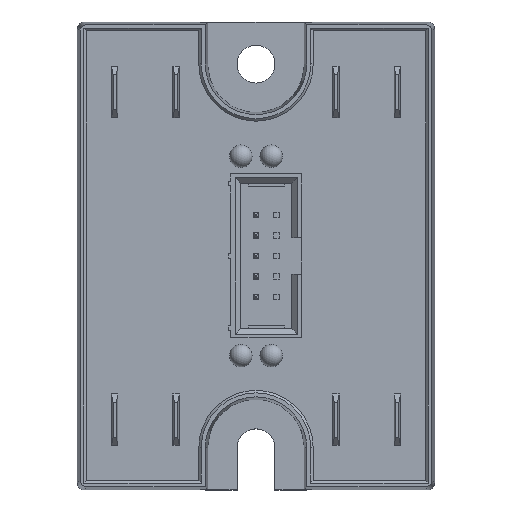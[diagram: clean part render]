
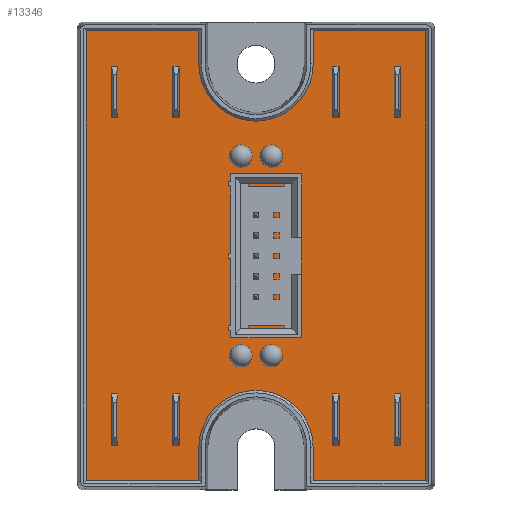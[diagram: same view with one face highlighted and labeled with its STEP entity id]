
A CAD part, top view. The second image highlights one B-rep face of the part: STEP entity #13346.
In plain terms, the highlighted planar face has unit normal (0, 0, 1).
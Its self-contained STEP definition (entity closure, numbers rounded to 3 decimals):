
#416=CIRCLE('',#14305,7.094);
#418=CIRCLE('',#14313,7.094);
#988=FACE_OUTER_BOUND('',#1734,.T.);
#1734=EDGE_LOOP('',(#11008,#11009,#11010,#11011,#11012,#11013,#11014,#11015,
#11016,#11017,#11018,#11019));
#3105=LINE('',#20840,#4703);
#3110=LINE('',#20853,#4708);
#3113=LINE('',#20859,#4711);
#3116=LINE('',#20865,#4714);
#3119=LINE('',#20871,#4717);
#3122=LINE('',#20877,#4720);
#3126=LINE('',#20889,#4724);
#3129=LINE('',#20895,#4727);
#3132=LINE('',#20901,#4730);
#3134=LINE('',#20904,#4732);
#4703=VECTOR('',#17188,10.);
#4708=VECTOR('',#17201,10.);
#4711=VECTOR('',#17206,10.);
#4714=VECTOR('',#17211,10.);
#4717=VECTOR('',#17216,10.);
#4720=VECTOR('',#17221,10.);
#4724=VECTOR('',#17233,10.);
#4727=VECTOR('',#17238,10.);
#4730=VECTOR('',#17243,10.);
#4732=VECTOR('',#17247,10.);
#6034=VERTEX_POINT('',#20837);
#6035=VERTEX_POINT('',#20839);
#6037=VERTEX_POINT('',#20845);
#6039=VERTEX_POINT('',#20851);
#6041=VERTEX_POINT('',#20857);
#6043=VERTEX_POINT('',#20863);
#6045=VERTEX_POINT('',#20869);
#6047=VERTEX_POINT('',#20875);
#6049=VERTEX_POINT('',#20881);
#6051=VERTEX_POINT('',#20887);
#6053=VERTEX_POINT('',#20893);
#6055=VERTEX_POINT('',#20899);
#7711=EDGE_CURVE('',#6035,#6034,#3105,.T.);
#7715=EDGE_CURVE('',#6034,#6037,#416,.T.);
#7718=EDGE_CURVE('',#6037,#6039,#3110,.T.);
#7721=EDGE_CURVE('',#6039,#6041,#3113,.T.);
#7724=EDGE_CURVE('',#6041,#6043,#3116,.T.);
#7727=EDGE_CURVE('',#6043,#6045,#3119,.T.);
#7730=EDGE_CURVE('',#6045,#6047,#3122,.T.);
#7733=EDGE_CURVE('',#6047,#6049,#418,.T.);
#7736=EDGE_CURVE('',#6049,#6051,#3126,.T.);
#7739=EDGE_CURVE('',#6051,#6053,#3129,.T.);
#7742=EDGE_CURVE('',#6053,#6055,#3132,.T.);
#7744=EDGE_CURVE('',#6055,#6035,#3134,.T.);
#11008=ORIENTED_EDGE('',*,*,#7744,.T.);
#11009=ORIENTED_EDGE('',*,*,#7711,.T.);
#11010=ORIENTED_EDGE('',*,*,#7715,.T.);
#11011=ORIENTED_EDGE('',*,*,#7718,.T.);
#11012=ORIENTED_EDGE('',*,*,#7721,.T.);
#11013=ORIENTED_EDGE('',*,*,#7724,.T.);
#11014=ORIENTED_EDGE('',*,*,#7727,.T.);
#11015=ORIENTED_EDGE('',*,*,#7730,.T.);
#11016=ORIENTED_EDGE('',*,*,#7733,.T.);
#11017=ORIENTED_EDGE('',*,*,#7736,.T.);
#11018=ORIENTED_EDGE('',*,*,#7739,.T.);
#11019=ORIENTED_EDGE('',*,*,#7742,.T.);
#12259=PLANE('',#14319);
#13346=ADVANCED_FACE('',(#988),#12259,.F.);
#14305=AXIS2_PLACEMENT_3D('',#20847,#17195,#17196);
#14313=AXIS2_PLACEMENT_3D('',#20883,#17227,#17228);
#14319=AXIS2_PLACEMENT_3D('',#20906,#17250,#17251);
#17188=DIRECTION('',(0.,1.,0.));
#17195=DIRECTION('center_axis',(0.,0.,
-1.));
#17196=DIRECTION('ref_axis',(-1.,0.,0.));
#17201=DIRECTION('',(0.,-1.,0.));
#17206=DIRECTION('',(1.,0.,0.));
#17211=DIRECTION('',(0.,1.,0.));
#17216=DIRECTION('',(-1.,0.,0.));
#17221=DIRECTION('',(0.,-1.,0.));
#17227=DIRECTION('center_axis',(0.,0.,
-1.));
#17228=DIRECTION('ref_axis',(1.,0.,0.));
#17233=DIRECTION('',(0.,1.,0.));
#17238=DIRECTION('',(-1.,0.,0.));
#17243=DIRECTION('',(0.,-1.,0.));
#17247=DIRECTION('',(1.,0.,0.));
#17250=DIRECTION('center_axis',(0.,0.,
-1.));
#17251=DIRECTION('ref_axis',(1.,0.,0.));
#20837=CARTESIAN_POINT('',(-7.094,-23.77,8.101));
#20839=CARTESIAN_POINT('',(-7.094,-27.876,8.101));
#20840=CARTESIAN_POINT('',(-7.094,-27.876,8.101));
#20845=CARTESIAN_POINT('',(7.094,-23.77,8.101));
#20847=CARTESIAN_POINT('Origin',(0.,-23.77,8.101));
#20851=CARTESIAN_POINT('',(7.094,-27.876,8.101));
#20853=CARTESIAN_POINT('',(7.094,-23.77,8.101));
#20857=CARTESIAN_POINT('',(21.056,-27.876,8.101));
#20859=CARTESIAN_POINT('',(7.094,-27.876,8.101));
#20863=CARTESIAN_POINT('',(21.056,27.936,8.101));
#20865=CARTESIAN_POINT('',(21.056,-27.876,8.101));
#20869=CARTESIAN_POINT('',(7.094,27.936,8.101));
#20871=CARTESIAN_POINT('',(21.056,27.936,8.101));
#20875=CARTESIAN_POINT('',(7.094,23.83,8.101));
#20877=CARTESIAN_POINT('',(7.094,27.936,8.101));
#20881=CARTESIAN_POINT('',(-7.094,23.83,8.101));
#20883=CARTESIAN_POINT('Origin',(0.,23.83,8.101));
#20887=CARTESIAN_POINT('',(-7.094,27.936,8.101));
#20889=CARTESIAN_POINT('',(-7.094,23.83,8.101));
#20893=CARTESIAN_POINT('',(-21.056,27.936,8.101));
#20895=CARTESIAN_POINT('',(-7.094,27.936,8.101));
#20899=CARTESIAN_POINT('',(-21.056,-27.876,8.101));
#20901=CARTESIAN_POINT('',(-21.056,27.936,8.101));
#20904=CARTESIAN_POINT('',(-21.056,-27.876,8.101));
#20906=CARTESIAN_POINT('Origin',(0.,0.03,
8.101));
